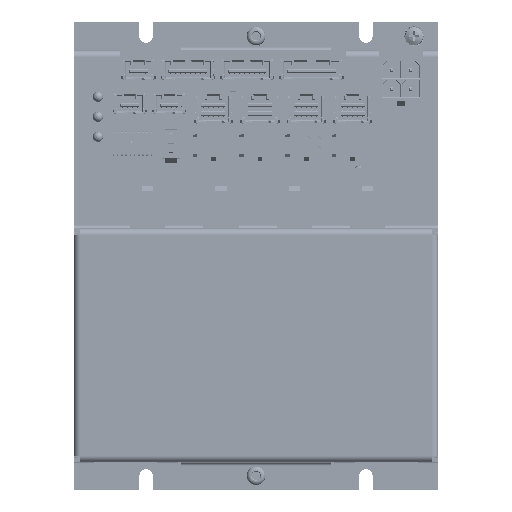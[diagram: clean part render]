
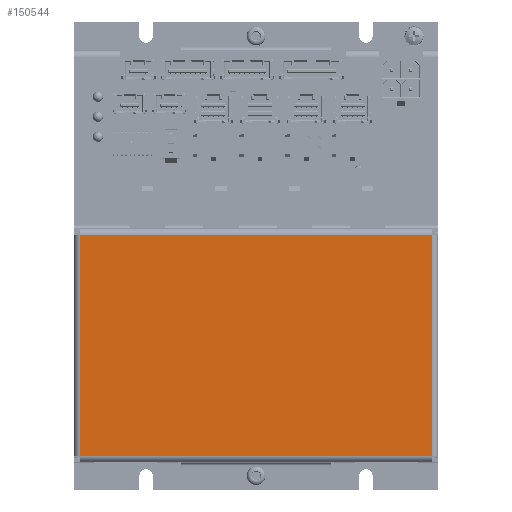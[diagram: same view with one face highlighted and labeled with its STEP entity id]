
A CAD part, top view. The second image highlights one B-rep face of the part: STEP entity #150544.
In plain terms, the highlighted planar face has unit normal (0, 0, 1).
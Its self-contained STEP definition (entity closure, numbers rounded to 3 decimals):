
#9433=PLANE('',#161998);
#16940=FACE_OUTER_BOUND('',#25230,.T.);
#25230=EDGE_LOOP('',(#139609,#139610,#139611,#139612));
#42587=LINE('',#263508,#60043);
#42640=LINE('',#263710,#60096);
#42646=LINE('',#263727,#60102);
#42658=LINE('',#263758,#60114);
#60043=VECTOR('',#199840,10.);
#60096=VECTOR('',#200009,10.);
#60102=VECTOR('',#200025,10.);
#60114=VECTOR('',#200061,10.);
#76805=VERTEX_POINT('',#263505);
#76806=VERTEX_POINT('',#263507);
#76897=VERTEX_POINT('',#263709);
#76903=VERTEX_POINT('',#263725);
#97816=EDGE_CURVE('',#76806,#76805,#42587,.T.);
#97918=EDGE_CURVE('',#76897,#76806,#42640,.T.);
#97927=EDGE_CURVE('',#76805,#76903,#42646,.T.);
#97943=EDGE_CURVE('',#76903,#76897,#42658,.T.);
#139609=ORIENTED_EDGE('',*,*,#97816,.T.);
#139610=ORIENTED_EDGE('',*,*,#97927,.T.);
#139611=ORIENTED_EDGE('',*,*,#97943,.T.);
#139612=ORIENTED_EDGE('',*,*,#97918,.T.);
#150544=ADVANCED_FACE('',(#16940),#9433,.T.);
#161998=AXIS2_PLACEMENT_3D('',#263853,#200149,#200150);
#199840=DIRECTION('',(1.,0.,0.));
#200009=DIRECTION('',(0.,-1.,0.));
#200025=DIRECTION('',(0.,1.,0.));
#200061=DIRECTION('',(-1.,0.,0.));
#200149=DIRECTION('center_axis',(0.,0.,1.));
#200150=DIRECTION('ref_axis',(1.,0.,0.));
#263505=CARTESIAN_POINT('',(35.25,-52.75,1.));
#263507=CARTESIAN_POINT('',(-31.,-52.75,1.));
#263508=CARTESIAN_POINT('',(18.688,-52.75,1.));
#263709=CARTESIAN_POINT('',(-31.,52.75,1.));
#263710=CARTESIAN_POINT('',(-31.,-27.375,1.));
#263725=CARTESIAN_POINT('',(35.25,52.75,1.));
#263727=CARTESIAN_POINT('',(35.25,27.375,1.));
#263758=CARTESIAN_POINT('',(-14.438,52.75,1.));
#263853=CARTESIAN_POINT('Origin',(2.125,0.,
1.));
